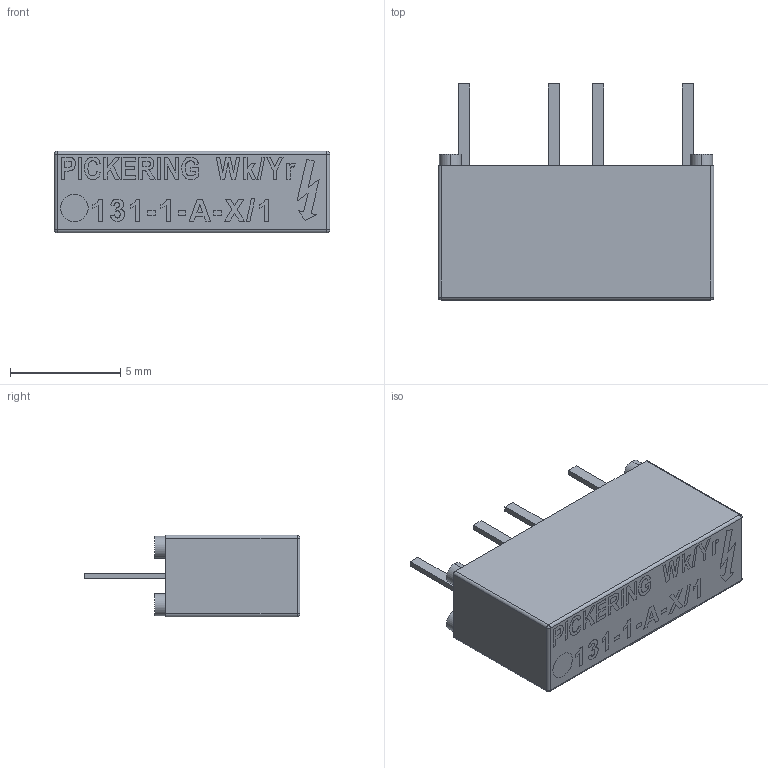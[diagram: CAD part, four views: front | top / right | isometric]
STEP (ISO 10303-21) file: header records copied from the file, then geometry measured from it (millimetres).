
FILE_DESCRIPTION (( 'STEP AP203' ), '1' );
FILE_NAME ('131-1-A-X-1.STEP', '2020-02-13T16:15:30', ( '' ), ( '' ), 'SwSTEP 2.0', 'SolidWorks 2019', '' );
FILE_SCHEMA (( 'CONFIG_CONTROL_DESIGN' ));
Length unit declared in the file: millimetre
Products named in the file (1): 131-1-A-X-1
Bounding box: 12.5 x 9.8 x 3.7 mm (x, y, z)
Volume: 285.4 mm3; surface area: 315.6 mm2
Topology: 1 solids, 1 shells, 326 faces, 850 edges, 560 vertices
Faces by surface type: plane 246, bspline 58, cylinder 18, sphere 4
Entity records: 12747 total; most frequent: CARTESIAN_POINT 5039, ORIENTED_EDGE 1692, DIRECTION 1304, EDGE_CURVE 846, VECTOR 694, LINE 694, VERTEX_POINT 560, EDGE_LOOP 364
